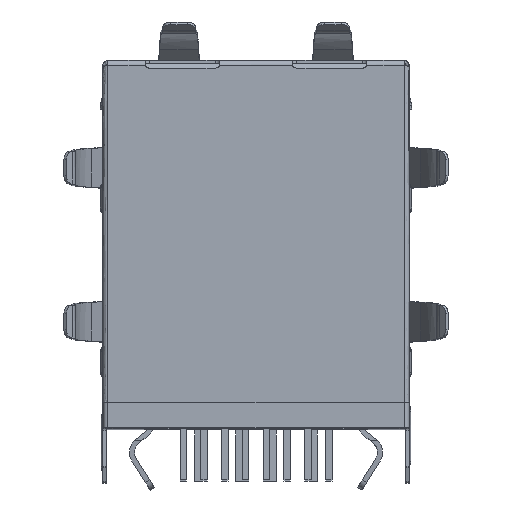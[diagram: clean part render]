
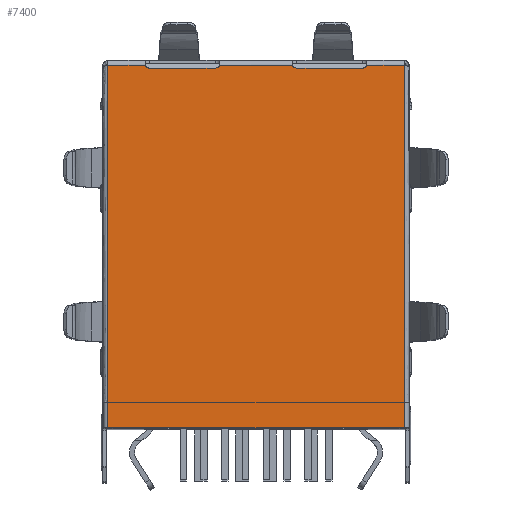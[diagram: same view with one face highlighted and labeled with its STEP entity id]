
A CAD part, top view. The second image highlights one B-rep face of the part: STEP entity #7400.
In plain terms, the highlighted planar face has unit normal (0, 0, 1).
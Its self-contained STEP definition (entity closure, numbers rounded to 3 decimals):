
#88 = DIRECTION ( 'NONE',  ( -1., 0., 0. ) ) ;
#3519 = VERTEX_POINT ( 'NONE', #66863 ) ;
#3672 = CARTESIAN_POINT ( 'NONE',  ( 18.407, 23.567, 36.549 ) ) ;
#4364 = EDGE_CURVE ( 'NONE', #86436, #33248, #101281, .T. ) ;
#6551 = EDGE_CURVE ( 'NONE', #73751, #75535, #56022, .T. ) ;
#6911 = VECTOR ( 'NONE', #89964, 1000. ) ;
#7400 = ADVANCED_FACE ( 'NONE', ( #85693 ), #75908, .F. ) ;
#7583 = DIRECTION ( 'NONE',  ( 0., -1., 0. ) ) ;
#8507 = EDGE_CURVE ( 'NONE', #58649, #34802, #121049, .T. ) ;
#10241 = EDGE_CURVE ( 'NONE', #34802, #63554, #34456, .T. ) ;
#10360 = DIRECTION ( 'NONE',  ( 0., 0., -1. ) ) ;
#10507 = VERTEX_POINT ( 'NONE', #107158 ) ;
#11680 = CARTESIAN_POINT ( 'NONE',  ( 2.857, 23.735, 36.549 ) ) ;
#15567 = CARTESIAN_POINT ( 'NONE',  ( 20.957, 1.617, 36.549 ) ) ;
#16848 = VECTOR ( 'NONE', #101431, 1000. ) ;
#17128 = LINE ( 'NONE', #45354, #105177 ) ;
#17194 = ORIENTED_EDGE ( 'NONE', *, *, #4364, .F. ) ;
#18199 = EDGE_CURVE ( 'NONE', #3519, #61229, #66076, .T. ) ;
#19396 = ORIENTED_EDGE ( 'NONE', *, *, #49641, .F. ) ;
#21961 = CARTESIAN_POINT ( 'NONE',  ( 18.407, 23.867, 36.549 ) ) ;
#22615 = VECTOR ( 'NONE', #7583, 1000. ) ;
#27440 = LINE ( 'NONE', #28651, #113279 ) ;
#28651 = CARTESIAN_POINT ( 'NONE',  ( 14.407, 23.567, 36.549 ) ) ;
#29277 = VECTOR ( 'NONE', #94790, 1000. ) ;
#32251 = CARTESIAN_POINT ( 'NONE',  ( 9.407, 23.567, 36.549 ) ) ;
#33248 = VERTEX_POINT ( 'NONE', #15567 ) ;
#34456 = LINE ( 'NONE', #65037, #67748 ) ;
#34714 = CARTESIAN_POINT ( 'NONE',  ( 14.137, 23.737, 36.549 ) ) ;
#34802 = VERTEX_POINT ( 'NONE', #11680 ) ;
#34865 = LINE ( 'NONE', #119382, #6911 ) ;
#36108 = CARTESIAN_POINT ( 'NONE',  ( 18.677, 23.737, 36.549 ) ) ;
#36259 = CARTESIAN_POINT ( 'NONE',  ( 20.957, 23.735, 36.549 ) ) ;
#36401 = AXIS2_PLACEMENT_3D ( 'NONE', #45517, #102372, #88 ) ;
#36874 = DIRECTION ( 'NONE',  ( 1., 0.001, 0. ) ) ;
#38383 = AXIS2_PLACEMENT_3D ( 'NONE', #21961, #61141, #105845 ) ;
#38721 = ORIENTED_EDGE ( 'NONE', *, *, #8507, .F. ) ;
#38776 = DIRECTION ( 'NONE',  ( 1., 0., 0. ) ) ;
#39855 = DIRECTION ( 'NONE',  ( -1., 0., 0. ) ) ;
#41367 = AXIS2_PLACEMENT_3D ( 'NONE', #113314, #86943, #39855 ) ;
#41379 = EDGE_CURVE ( 'NONE', #33248, #58649, #17128, .T. ) ;
#43480 = AXIS2_PLACEMENT_3D ( 'NONE', #89647, #107997, #80475 ) ;
#45354 = CARTESIAN_POINT ( 'NONE',  ( 2.857, 1.617, 36.549 ) ) ;
#45517 = CARTESIAN_POINT ( 'NONE',  ( 14.407, 23.867, 36.549 ) ) ;
#47969 = CARTESIAN_POINT ( 'NONE',  ( 5.407, 23.567, 36.549 ) ) ;
#49277 = VERTEX_POINT ( 'NONE', #32251 ) ;
#49641 = EDGE_CURVE ( 'NONE', #49277, #3519, #80616, .T. ) ;
#51613 = EDGE_CURVE ( 'NONE', #63554, #69527, #109788, .T. ) ;
#53350 = ORIENTED_EDGE ( 'NONE', *, *, #51613, .F. ) ;
#56022 = CIRCLE ( 'NONE', #38383, 0.3 ) ;
#58649 = VERTEX_POINT ( 'NONE', #102256 ) ;
#61141 = DIRECTION ( 'NONE',  ( 0., 0., 1. ) ) ;
#61229 = VERTEX_POINT ( 'NONE', #34714 ) ;
#62025 = EDGE_CURVE ( 'NONE', #10507, #73751, #27440, .T. ) ;
#63554 = VERTEX_POINT ( 'NONE', #100028 ) ;
#64814 = DIRECTION ( 'NONE',  ( 1., 0., 0. ) ) ;
#65037 = CARTESIAN_POINT ( 'NONE',  ( 2.857, 23.735, 36.549 ) ) ;
#65762 = CARTESIAN_POINT ( 'NONE',  ( 20.957, 23.735, 36.549 ) ) ;
#66076 = LINE ( 'NONE', #114405, #29277 ) ;
#66108 = DIRECTION ( 'NONE',  ( -1., 0., 0. ) ) ;
#66863 = CARTESIAN_POINT ( 'NONE',  ( 9.677, 23.737, 36.549 ) ) ;
#67748 = VECTOR ( 'NONE', #36874, 1000. ) ;
#69527 = VERTEX_POINT ( 'NONE', #105257 ) ;
#71702 = ORIENTED_EDGE ( 'NONE', *, *, #41379, .F. ) ;
#73751 = VERTEX_POINT ( 'NONE', #3672 ) ;
#75535 = VERTEX_POINT ( 'NONE', #36108 ) ;
#75908 = PLANE ( 'NONE',  #91182 ) ;
#76495 = CARTESIAN_POINT ( 'NONE',  ( 5.407, 23.867, 36.549 ) ) ;
#80475 = DIRECTION ( 'NONE',  ( -1., 0., 0. ) ) ;
#80616 = CIRCLE ( 'NONE', #43480, 0.3 ) ;
#81054 = EDGE_LOOP ( 'NONE', ( #38721, #71702, #17194, #85310, #81331, #85580, #100745, #111880, #19396, #120642, #53350, #103755 ) ) ;
#81331 = ORIENTED_EDGE ( 'NONE', *, *, #6551, .F. ) ;
#85310 = ORIENTED_EDGE ( 'NONE', *, *, #120542, .F. ) ;
#85580 = ORIENTED_EDGE ( 'NONE', *, *, #62025, .F. ) ;
#85693 = FACE_OUTER_BOUND ( 'NONE', #81054, .T. ) ;
#85893 = LINE ( 'NONE', #47969, #90962 ) ;
#86436 = VERTEX_POINT ( 'NONE', #36259 ) ;
#86943 = DIRECTION ( 'NONE',  ( 0., 0., 1. ) ) ;
#89647 = CARTESIAN_POINT ( 'NONE',  ( 9.407, 23.867, 36.549 ) ) ;
#89964 = DIRECTION ( 'NONE',  ( 1., -0.001, 0. ) ) ;
#90962 = VECTOR ( 'NONE', #38776, 1000. ) ;
#91182 = AXIS2_PLACEMENT_3D ( 'NONE', #76495, #10360, #66108 ) ;
#91754 = EDGE_CURVE ( 'NONE', #69527, #49277, #85893, .T. ) ;
#92828 = CARTESIAN_POINT ( 'NONE',  ( 2.857, 1.617, 36.549 ) ) ;
#94790 = DIRECTION ( 'NONE',  ( 1., 0., 0. ) ) ;
#100028 = CARTESIAN_POINT ( 'NONE',  ( 5.137, 23.737, 36.549 ) ) ;
#100745 = ORIENTED_EDGE ( 'NONE', *, *, #111983, .F. ) ;
#101281 = LINE ( 'NONE', #65762, #22615 ) ;
#101431 = DIRECTION ( 'NONE',  ( 0., 1., 0. ) ) ;
#102256 = CARTESIAN_POINT ( 'NONE',  ( 2.857, 1.617, 36.549 ) ) ;
#102372 = DIRECTION ( 'NONE',  ( 0., 0., 1. ) ) ;
#103755 = ORIENTED_EDGE ( 'NONE', *, *, #10241, .F. ) ;
#104820 = CIRCLE ( 'NONE', #36401, 0.3 ) ;
#105177 = VECTOR ( 'NONE', #119438, 1000. ) ;
#105257 = CARTESIAN_POINT ( 'NONE',  ( 5.407, 23.567, 36.549 ) ) ;
#105845 = DIRECTION ( 'NONE',  ( -1., 0., 0. ) ) ;
#107158 = CARTESIAN_POINT ( 'NONE',  ( 14.407, 23.567, 36.549 ) ) ;
#107997 = DIRECTION ( 'NONE',  ( 0., 0., 1. ) ) ;
#109788 = CIRCLE ( 'NONE', #41367, 0.3 ) ;
#111880 = ORIENTED_EDGE ( 'NONE', *, *, #18199, .F. ) ;
#111983 = EDGE_CURVE ( 'NONE', #61229, #10507, #104820, .T. ) ;
#113279 = VECTOR ( 'NONE', #64814, 1000. ) ;
#113314 = CARTESIAN_POINT ( 'NONE',  ( 5.407, 23.867, 36.549 ) ) ;
#114405 = CARTESIAN_POINT ( 'NONE',  ( 9.677, 23.737, 36.549 ) ) ;
#119382 = CARTESIAN_POINT ( 'NONE',  ( 18.677, 23.737, 36.549 ) ) ;
#119438 = DIRECTION ( 'NONE',  ( -1., 0., 0. ) ) ;
#120542 = EDGE_CURVE ( 'NONE', #75535, #86436, #34865, .T. ) ;
#120642 = ORIENTED_EDGE ( 'NONE', *, *, #91754, .F. ) ;
#121049 = LINE ( 'NONE', #92828, #16848 ) ;
